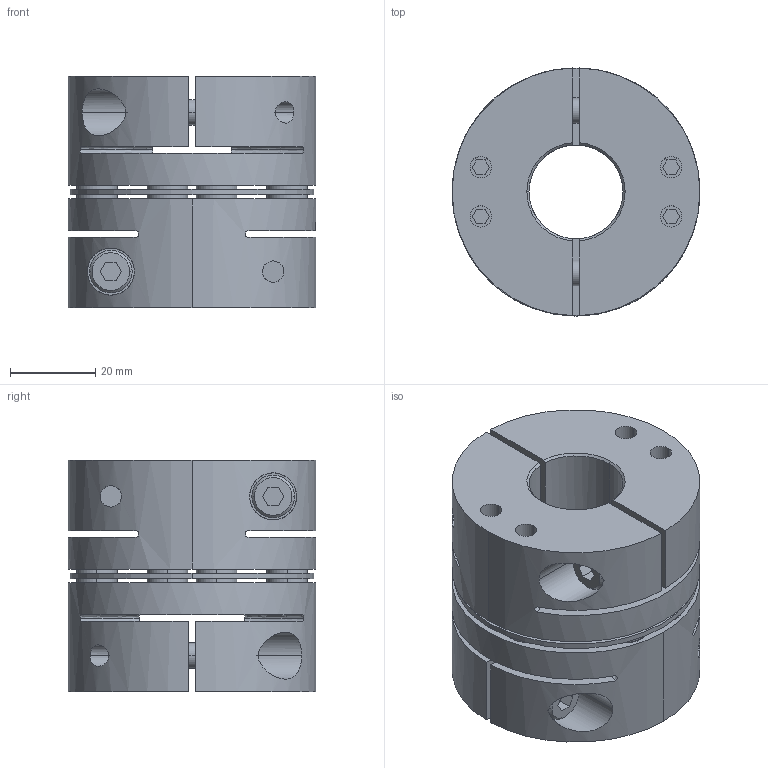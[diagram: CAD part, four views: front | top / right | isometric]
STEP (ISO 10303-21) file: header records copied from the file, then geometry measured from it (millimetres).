
FILE_DESCRIPTION((''),'2;1');
FILE_NAME('TAS-58C-22×28.stp','2022-11-14T22:23:55',(''),(''),'AutoCAD STEP 2000i','AutoCAD 2000i',', , ');
FILE_SCHEMA(('CONFIG_CONTROL_DESIGN'));
Length unit declared in the file: millimetre
Products named in the file (7): TAS-58C-22×22; 忣兜1; TA58C-22-2; CAP-M6×20; TA58C-22; TA58C-12-2; TA58C-12
Assembly tree (9 placements, depth 3):
  TAS-58C-22×22
    忣兜1
    TA58C-22-2
      CAP-M6×20
    TA58C-22
      CAP-M6×20
    TA58C-12-2
      CAP-M6×20
    TA58C-12
      CAP-M6×20
Bounding box: 58 x 58 x 54.25 mm (x, y, z)
Volume: 97953.3 mm3; surface area: 40563.7 mm2
Topology: 1 solids, 1 shells, 360 faces, 903 edges, 645 vertices
Faces by surface type: plane 160, cylinder 148, cone 36, bspline 16
Entity records: 12875 total; most frequent: CARTESIAN_POINT 3843, DIRECTION 1936, ORIENTED_EDGE 1720, EDGE_CURVE 860, AXIS2_PLACEMENT_3D 735, VERTEX_POINT 564, VECTOR 466, LINE 466
